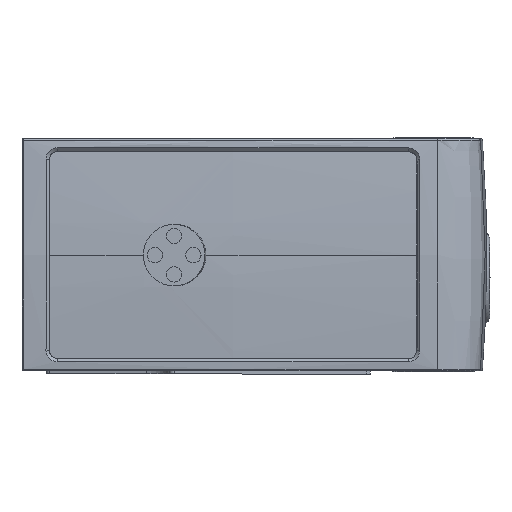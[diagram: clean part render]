
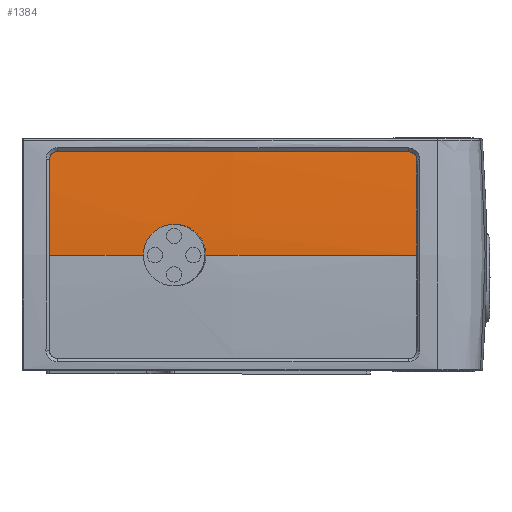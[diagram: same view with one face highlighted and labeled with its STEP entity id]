
A CAD part, front view. The second image highlights one B-rep face of the part: STEP entity #1384.
In plain terms, the highlighted face is a revolution surface.
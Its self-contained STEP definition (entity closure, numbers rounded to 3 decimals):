
#1279=SURFACE_OF_REVOLUTION('',#3174,#1281);
#1281=AXIS1_PLACEMENT('',#13154,#10555);
#1384=ADVANCED_FACE('',(#2081),#1279,.F.);
#2081=FACE_OUTER_BOUND('',#2562,.T.);
#2562=EDGE_LOOP('',(#4060,#4061,#4062,#4063,#4064,#4065,#4066,#4067));
#3164=B_SPLINE_CURVE_WITH_KNOTS('',3,(#13047,#13048,#13049,#13050,#13051,
#13052,#13053),.UNSPECIFIED.,.F.,.F.,(4,1,1,1,4),(0.,0.25,0.5,0.75,1.),
 .UNSPECIFIED.);
#3168=B_SPLINE_CURVE_WITH_KNOTS('',3,(#13078,#13079,#13080,#13081,#13082,
#13083,#13084),.UNSPECIFIED.,.F.,.F.,(4,1,1,1,4),(0.,0.25,0.5,0.75,1.),
 .UNSPECIFIED.);
#3170=B_SPLINE_CURVE_WITH_KNOTS('',3,(#13093,#13094,#13095,#13096,#13097,
#13098,#13099,#13100,#13101,#13102,#13103,#13104,#13105,#13106,#13107,#13108,
#13109,#13110,#13111,#13112,#13113,#13114,#13115,#13116,#13117,#13118,#13119,
#13120,#13121,#13122),.UNSPECIFIED.,.F.,.F.,(4,2,2,2,2,2,2,2,2,2,2,2,2,
2,4),(0.,0.063,0.125,0.188,0.25,0.375,
0.5,0.563,0.625,0.688,0.75,0.813,
0.875,0.938,1.),.UNSPECIFIED.);
#3171=B_SPLINE_CURVE_WITH_KNOTS('',3,(#13125,#13126,#13127,#13128,#13129,
#13130),.UNSPECIFIED.,.F.,.F.,(4,2,4),(0.,0.5,1.),.UNSPECIFIED.);
#3172=B_SPLINE_CURVE_WITH_KNOTS('',3,(#13132,#13133,#13134,#13135),
 .UNSPECIFIED.,.F.,.F.,(4,4),(0.,1.),.UNSPECIFIED.);
#3173=B_SPLINE_CURVE_WITH_KNOTS('',3,(#13137,#13138,#13139,#13140,#13141,
#13142,#13143,#13144),.UNSPECIFIED.,.F.,.F.,(4,2,2,4),(0.,0.25,0.5,1.),
 .UNSPECIFIED.);
#3174=B_SPLINE_CURVE_WITH_KNOTS('',3,(#13147,#13148,#13149,#13150,#13151,
#13152,#13153),.UNSPECIFIED.,.F.,.F.,(4,1,1,1,4),(0.,0.25,0.5,0.75,1.),
 .UNSPECIFIED.);
#3703=CIRCLE('',#9839,89.801);
#3704=CIRCLE('',#9840,90.674);
#4060=ORIENTED_EDGE('',*,*,#7490,.T.);
#4061=ORIENTED_EDGE('',*,*,#7497,.T.);
#4062=ORIENTED_EDGE('',*,*,#7496,.T.);
#4063=ORIENTED_EDGE('',*,*,#7498,.T.);
#4064=ORIENTED_EDGE('',*,*,#7499,.T.);
#4065=ORIENTED_EDGE('',*,*,#7500,.T.);
#4066=ORIENTED_EDGE('',*,*,#7501,.T.);
#4067=ORIENTED_EDGE('',*,*,#7502,.T.);
#6652=VERTEX_POINT('',#13045);
#6653=VERTEX_POINT('',#13046);
#6654=VERTEX_POINT('',#13054);
#6659=VERTEX_POINT('',#13077);
#6660=VERTEX_POINT('',#13124);
#6661=VERTEX_POINT('',#13131);
#6662=VERTEX_POINT('',#13136);
#6663=VERTEX_POINT('',#13145);
#7490=EDGE_CURVE('',#6654,#6652,#3164,.T.);
#7496=EDGE_CURVE('',#6653,#6659,#3168,.T.);
#7497=EDGE_CURVE('',#6652,#6653,#3170,.T.);
#7498=EDGE_CURVE('',#6659,#6660,#3703,.T.);
#7499=EDGE_CURVE('',#6660,#6661,#3171,.T.);
#7500=EDGE_CURVE('',#6661,#6662,#3172,.T.);
#7501=EDGE_CURVE('',#6662,#6663,#3173,.T.);
#7502=EDGE_CURVE('',#6663,#6654,#3704,.T.);
#9839=AXIS2_PLACEMENT_3D('',#13123,#10551,#10552);
#9840=AXIS2_PLACEMENT_3D('',#13146,#10553,#10554);
#10551=DIRECTION('',(-1.,0.003,0.001));
#10552=DIRECTION('',(-0.003,-1.,0.));
#10553=DIRECTION('',(1.,-0.003,-0.001));
#10554=DIRECTION('',(0.003,1.,0.));
#10555=DIRECTION('',(1.,-0.003,-0.001));
#13045=CARTESIAN_POINT('',(7.876,-1.094,7.477));
#13046=CARTESIAN_POINT('',(11.876,-1.004,7.474));
#13047=CARTESIAN_POINT('',(0.087,-1.146,7.483));
#13048=CARTESIAN_POINT('',(2.319,-1.155,7.481));
#13049=CARTESIAN_POINT('',(6.784,-1.132,7.478));
#13050=CARTESIAN_POINT('',(13.479,-0.975,7.473));
#13051=CARTESIAN_POINT('',(20.17,-0.696,7.469));
#13052=CARTESIAN_POINT('',(24.626,-0.428,7.466));
#13053=CARTESIAN_POINT('',(26.853,-0.273,7.464));
#13054=CARTESIAN_POINT('',(1.705,-1.149,7.482));
#13077=CARTESIAN_POINT('',(25.578,-0.359,7.465));
#13078=CARTESIAN_POINT('',(0.087,-1.146,7.483));
#13079=CARTESIAN_POINT('',(2.319,-1.155,7.481));
#13080=CARTESIAN_POINT('',(6.784,-1.132,7.478));
#13081=CARTESIAN_POINT('',(13.479,-0.975,7.473));
#13082=CARTESIAN_POINT('',(20.17,-0.696,7.469));
#13083=CARTESIAN_POINT('',(24.626,-0.428,7.466));
#13084=CARTESIAN_POINT('',(26.853,-0.273,7.464));
#13093=CARTESIAN_POINT('',(7.876,-1.094,7.477));
#13094=CARTESIAN_POINT('',(7.876,-1.094,7.609));
#13095=CARTESIAN_POINT('',(7.889,-1.094,7.739));
#13096=CARTESIAN_POINT('',(7.94,-1.091,7.995));
#13097=CARTESIAN_POINT('',(7.978,-1.09,8.122));
#13098=CARTESIAN_POINT('',(8.079,-1.086,8.364));
#13099=CARTESIAN_POINT('',(8.14,-1.083,8.479));
#13100=CARTESIAN_POINT('',(8.286,-1.077,8.696));
#13101=CARTESIAN_POINT('',(8.37,-1.074,8.799));
#13102=CARTESIAN_POINT('',(8.647,-1.064,9.075));
#13103=CARTESIAN_POINT('',(8.87,-1.057,9.224));
#13104=CARTESIAN_POINT('',(9.352,-1.043,9.423));
#13105=CARTESIAN_POINT('',(9.615,-1.036,9.476));
#13106=CARTESIAN_POINT('',(10.006,-1.027,9.476));
#13107=CARTESIAN_POINT('',(10.138,-1.024,9.463));
#13108=CARTESIAN_POINT('',(10.395,-1.019,9.412));
#13109=CARTESIAN_POINT('',(10.52,-1.017,9.374));
#13110=CARTESIAN_POINT('',(10.762,-1.013,9.274));
#13111=CARTESIAN_POINT('',(10.879,-1.012,9.211));
#13112=CARTESIAN_POINT('',(11.095,-1.009,9.066));
#13113=CARTESIAN_POINT('',(11.196,-1.008,8.984));
#13114=CARTESIAN_POINT('',(11.383,-1.006,8.797));
#13115=CARTESIAN_POINT('',(11.466,-1.005,8.696));
#13116=CARTESIAN_POINT('',(11.611,-1.004,8.479));
#13117=CARTESIAN_POINT('',(11.674,-1.004,8.362));
#13118=CARTESIAN_POINT('',(11.774,-1.003,8.12));
#13119=CARTESIAN_POINT('',(11.812,-1.003,7.995));
#13120=CARTESIAN_POINT('',(11.863,-1.003,7.739));
#13121=CARTESIAN_POINT('',(11.876,-1.003,7.607));
#13122=CARTESIAN_POINT('',(11.876,-1.004,7.474));
#13123=CARTESIAN_POINT('',(25.892,89.441,7.349));
#13124=CARTESIAN_POINT('',(25.583,-0.136,13.685));
#13125=CARTESIAN_POINT('',(25.583,-0.136,13.685));
#13126=CARTESIAN_POINT('',(25.583,-0.126,13.817));
#13127=CARTESIAN_POINT('',(25.53,-0.12,13.946));
#13128=CARTESIAN_POINT('',(25.345,-0.119,14.131));
#13129=CARTESIAN_POINT('',(25.216,-0.123,14.185));
#13130=CARTESIAN_POINT('',(25.084,-0.132,14.185));
#13131=CARTESIAN_POINT('',(25.084,-0.132,14.185));
#13132=CARTESIAN_POINT('',(25.084,-0.132,14.185));
#13133=CARTESIAN_POINT('',(17.47,-0.624,14.191));
#13134=CARTESIAN_POINT('',(9.841,-0.877,14.196));
#13135=CARTESIAN_POINT('',(2.211,-0.89,14.201));
#13136=CARTESIAN_POINT('',(2.211,-0.89,14.201));
#13137=CARTESIAN_POINT('',(2.211,-0.89,14.201));
#13138=CARTESIAN_POINT('',(2.142,-0.89,14.201));
#13139=CARTESIAN_POINT('',(2.078,-0.891,14.189));
#13140=CARTESIAN_POINT('',(1.959,-0.895,14.139));
#13141=CARTESIAN_POINT('',(1.901,-0.898,14.099));
#13142=CARTESIAN_POINT('',(1.763,-0.909,13.961));
#13143=CARTESIAN_POINT('',(1.711,-0.918,13.835));
#13144=CARTESIAN_POINT('',(1.71,-0.927,13.702));
#13145=CARTESIAN_POINT('',(1.71,-0.927,13.702));
#13146=CARTESIAN_POINT('',(2.022,89.525,7.366));
#13147=CARTESIAN_POINT('',(26.866,0.756,20.901));
#13148=CARTESIAN_POINT('',(24.639,0.604,20.927));
#13149=CARTESIAN_POINT('',(20.183,0.339,20.973));
#13150=CARTESIAN_POINT('',(13.492,0.063,21.023));
#13151=CARTESIAN_POINT('',(6.797,-0.092,21.054));
#13152=CARTESIAN_POINT('',(2.332,-0.114,21.063));
#13153=CARTESIAN_POINT('',(0.1,-0.105,21.064));
#13154=CARTESIAN_POINT('',(13.342,89.485,7.358));
